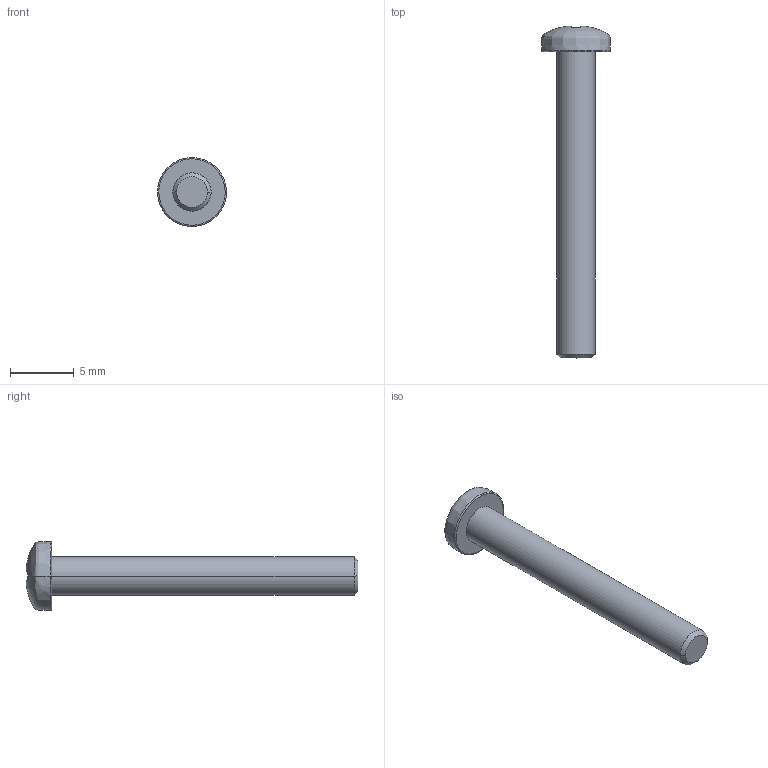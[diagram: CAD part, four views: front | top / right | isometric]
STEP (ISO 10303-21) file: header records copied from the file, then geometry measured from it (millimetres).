
FILE_DESCRIPTION(/* description */ (''),/* implementation_level */ '2;1');
FILE_NAME(/* name */ 'M3X24~1',/* time_stamp */ '2019-04-02T19:06:19-03:00',/* author */ (''),/* organization */ (''),/* preprocessor_version */ 'ST-DEVELOPER v16.5',/* originating_system */ '',/* authorisation */ '');
FILE_SCHEMA (('AUTOMOTIVE_DESIGN'));
Length unit declared in the file: millimetre
Products named in the file (1): Document
Bounding box: 5.4 x 26 x 5.41 mm (x, y, z)
Volume: 204.2 mm3; surface area: 300 mm2
Topology: 1 solids, 1 shells, 34 faces, 80 edges, 45 vertices
Faces by surface type: bspline 24, plane 10
Entity records: 1508 total; most frequent: CARTESIAN_POINT 1000, ORIENTED_EDGE 152, EDGE_CURVE 76, B_SPLINE_CURVE_WITH_KNOTS 60, VERTEX_POINT 45, EDGE_LOOP 35, ADVANCED_FACE 34, FACE_OUTER_BOUND 34
